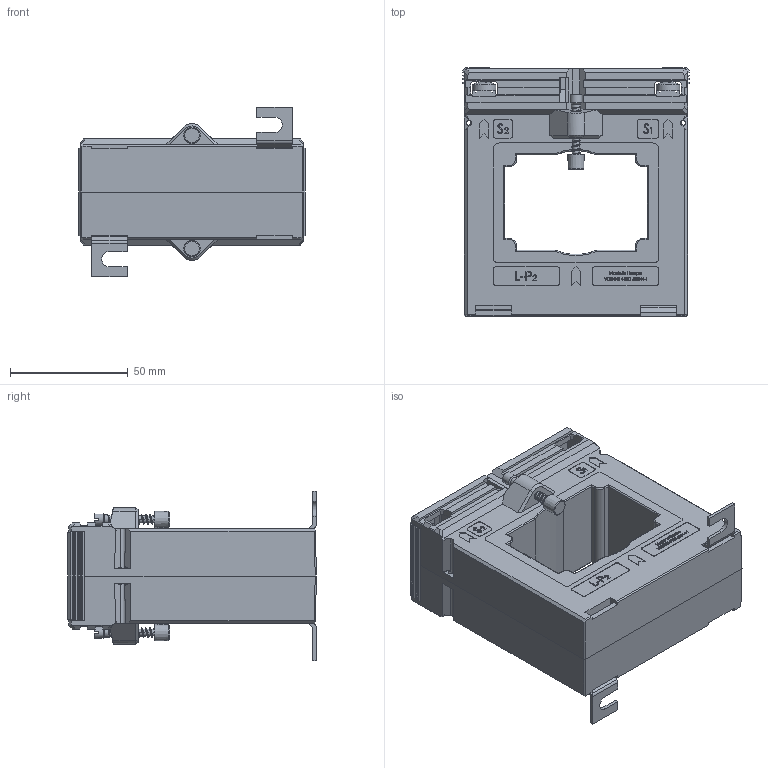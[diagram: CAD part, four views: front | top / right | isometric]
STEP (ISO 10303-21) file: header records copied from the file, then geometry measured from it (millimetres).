
FILE_DESCRIPTION(/* description */ (''),/* implementation_level */ '2;1');
FILE_NAME(/* name */ 'ASK63.4.stp',/* time_stamp */ '2024-03-04T13:28:52+01:00',/* author */ ('JDI'),/* organization */ (''),/* preprocessor_version */ 'ST-DEVELOPER v19.2',/* originating_system */ 'Autodesk Inventor 2023',/* authorisation */ '');
FILE_SCHEMA (('AUTOMOTIVE_DESIGN { 1 0 10303 214 3 1 1 }'));
Products named in the file (1): ASK63.4.
Bounding box: 96 x 105.5 x 72 mm (x, y, z)
Volume: 290732.4 mm3; surface area: 54380.6 mm2
Topology: 1 solids, 1 shells, 1812 faces, 4862 edges, 3136 vertices
Faces by surface type: plane 1256, bspline 318, cylinder 168, cone 46, torus 16, sphere 8
Full cylindrical faces by diameter (mm): 2.95 x2, 3 x26, 3.8 x4, 4 x10, 4.1 x2, 5 x2, 10 x4
Entity records: 80011 total; most frequent: CARTESIAN_POINT 35131, ORIENTED_EDGE 9724, DIRECTION 7502, EDGE_CURVE 4862, LINE 3596, VECTOR 3596, VERTEX_POINT 3136, EDGE_LOOP 1970
